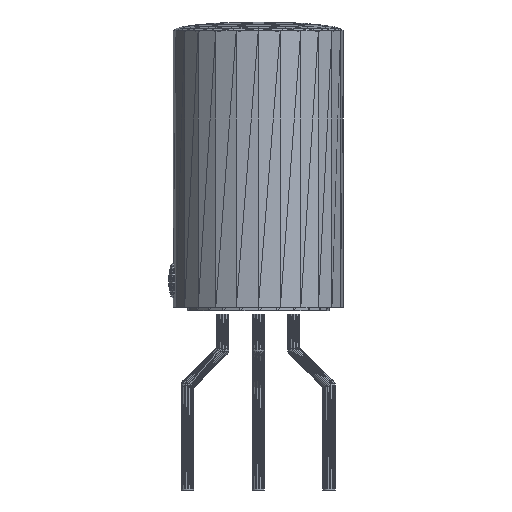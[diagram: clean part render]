
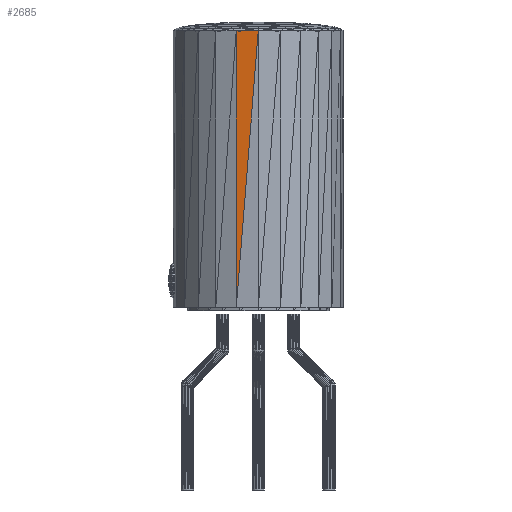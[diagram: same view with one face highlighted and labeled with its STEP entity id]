
A CAD part, front view. The second image highlights one B-rep face of the part: STEP entity #2685.
In plain terms, the highlighted planar face has unit normal (-0.13, -0.992, 0).
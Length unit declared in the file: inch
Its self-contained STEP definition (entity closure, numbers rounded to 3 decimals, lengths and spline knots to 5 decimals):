
#2636=CARTESIAN_POINT('',(-0.03099,-0.11593,0.185));
#2637=VERTEX_POINT('',#2636);
#2638=CARTESIAN_POINT('',(0.00007,-0.12,0.575));
#2639=VERTEX_POINT('',#2638);
#2640=CARTESIAN_POINT('',(-0.03099,-0.11593,0.185));
#2641=DIRECTION('',(0.079,-0.01,0.997));
#2642=VECTOR('',#2641,0.39126);
#2643=LINE('',#2640,#2642);
#2644=EDGE_CURVE('',#2637,#2639,#2643,.T.);
#2663=CARTESIAN_POINT('',(0.00007,-0.12,0.575));
#2664=DIRECTION('',(0.13,0.992,0.));
#2665=DIRECTION('',(0.992,-0.13,0.));
#2666=AXIS2_PLACEMENT_3D('',#2663,#2664,#2665);
#2667=PLANE('',#2666);
#2668=CARTESIAN_POINT('',(-0.03099,-0.11593,0.575));
#2669=VERTEX_POINT('',#2668);
#2670=CARTESIAN_POINT('',(-0.03099,-0.11593,0.575));
#2671=DIRECTION('',(0.992,-0.13,0.));
#2672=VECTOR('',#2671,0.03133);
#2673=LINE('',#2670,#2672);
#2674=EDGE_CURVE('',#2669,#2639,#2673,.T.);
#2675=ORIENTED_EDGE('',*,*,#2674,.F.);
#2676=CARTESIAN_POINT('',(-0.03099,-0.11593,0.185));
#2677=DIRECTION('',(0.,0.,1.));
#2678=VECTOR('',#2677,0.39);
#2679=LINE('',#2676,#2678);
#2680=EDGE_CURVE('',#2637,#2669,#2679,.T.);
#2681=ORIENTED_EDGE('',*,*,#2680,.F.);
#2682=ORIENTED_EDGE('',*,*,#2644,.T.);
#2683=EDGE_LOOP('',(#2675,#2681,#2682));
#2684=FACE_BOUND('',#2683,.T.);
#2685=ADVANCED_FACE('',(#2684),#2667,.F.);
